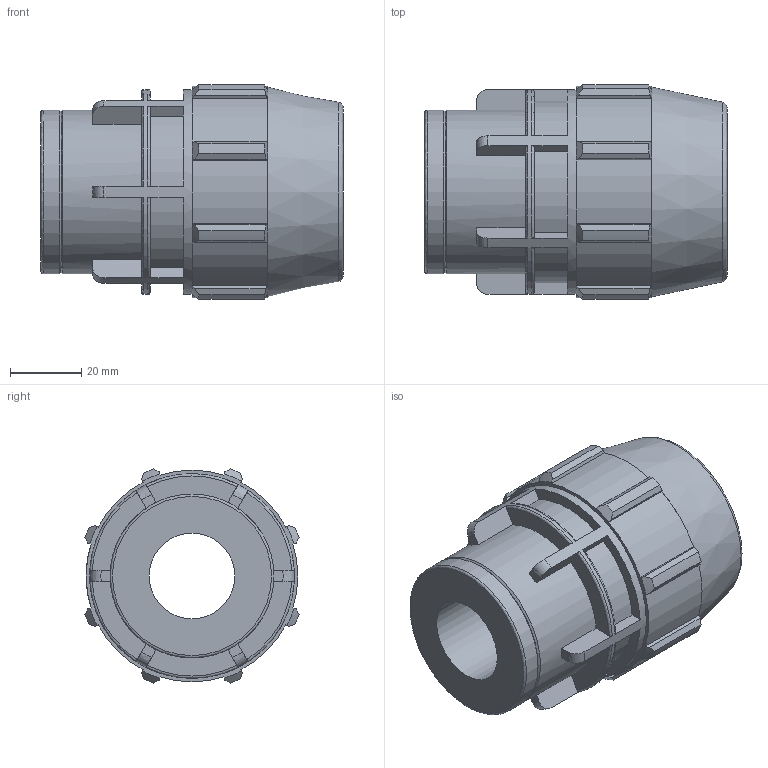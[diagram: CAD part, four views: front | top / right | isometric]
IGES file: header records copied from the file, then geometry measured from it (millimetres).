
Global section: file name: 0703M0010007.ipt; native system: Autodesk Inventor 2019; preprocessor: unknown; author: KIM; date: 20210826.124511; units: inch
Bounding box: 85.09 x 60.23 x 60.23 mm (x, y, z)
Volume: 124620.3 mm3; surface area: 29431.6 mm2
Topology: 1 solids, 1 shells, 148 faces, 413 edges, 277 vertices
Faces by surface type: plane 86, revolution 25, cylinder 25, cone 12
Full cylindrical faces by diameter (mm): 46.086 x2, 57.607 x1
